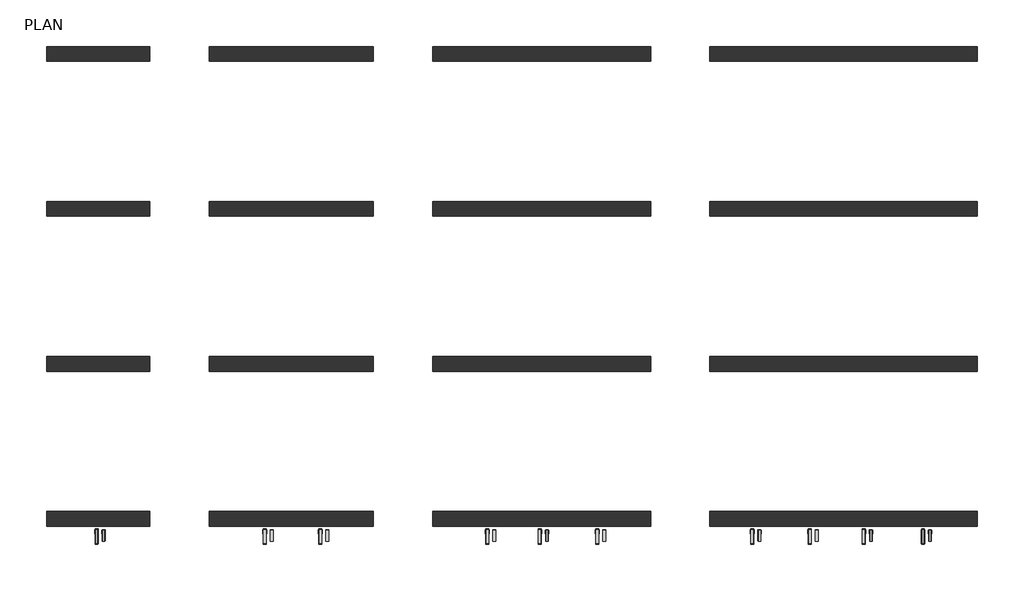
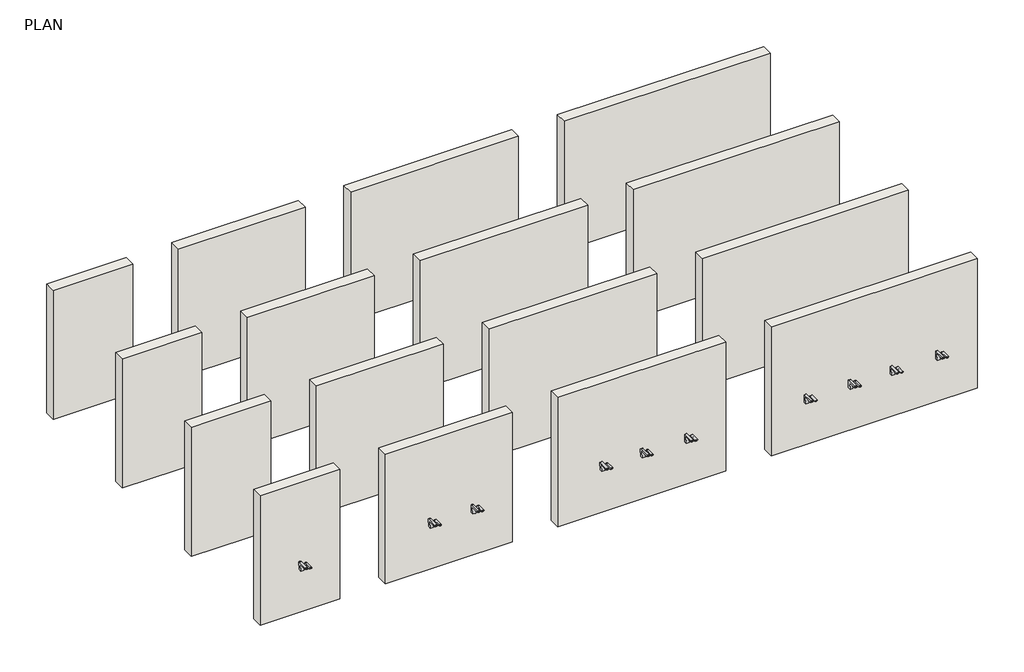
# One storey, incomplete: 16 walls, 10 flow terminals, 10 proxies.
"""IFC4 building model written with IfcOpenShell, lengths in millimetres."""

from ifc_helpers import new_model, si_unit, origin, origin_with_axes, place, context, project, spatial, polyline, outline, extrude, transform, mapped, element, save
from components import specialty_equipment_7b20ac78, flow_terminal_4b3c92f4

model = new_model("IFC4")

# Units and contexts
model_context = context("Model", 3, world=origin())
ifc_project = project(units=[si_unit("LENGTHUNIT", "METRE", prefix="MILLI")], contexts=[model_context])

# Site, building, storey
site = spatial("IfcSite", under=ifc_project)
building = spatial("IfcBuilding", under=site)
storey = spatial("IfcBuildingStorey", under=building, Name="PLAN", Elevation=0.0)

# Proxies
placement = place(None, origin())
specialty_equipment_shape = specialty_equipment_7b20ac78(model_context)
element("IfcBuildingElementProxy", 1, Name="Soap_Dispenser-Bradley_Corp-Deck_Mounted-Verge_Zen_6-3700 : Verge Zen Series 6-3700", ObjectType="Soap_Dispenser-Bradley_Corp-Deck_Mounted-Verge_Zen_6-3700 : Verge Zen Series 6-3700", at=placement, inside=storey, context=model_context, shape_type="MappedRepresentation", body=[
    mapped(specialty_equipment_shape, transform((-9524.8152296, -4985.3380118, 850.9), x_axis=(1.0, 0.0, 0.0), y_axis=(0.0, 1.0, 0.0), z_axis=(0.0, 0.0, 1.0))),
])
element("IfcBuildingElementProxy", 2, Name="Soap_Dispenser-Bradley_Corp-Deck_Mounted-Verge_Zen_6-3700 : Verge Zen Series 6-3700", ObjectType="Soap_Dispenser-Bradley_Corp-Deck_Mounted-Verge_Zen_6-3700 : Verge Zen Series 6-3700", at=placement, inside=storey, context=model_context, shape_type="MappedRepresentation", body=[
    mapped(specialty_equipment_shape, transform((-7211.6295075, -4985.3380118, 850.9), x_axis=(1.0, 0.0, 0.0), y_axis=(0.0, 1.0, 0.0), z_axis=(0.0, 0.0, 1.0))),
])
element("IfcBuildingElementProxy", 3, Name="Soap_Dispenser-Bradley_Corp-Deck_Mounted-Verge_Zen_6-3700 : Verge Zen Series 6-3700", ObjectType="Soap_Dispenser-Bradley_Corp-Deck_Mounted-Verge_Zen_6-3700 : Verge Zen Series 6-3700", at=placement, inside=storey, context=model_context, shape_type="MappedRepresentation", body=[
    mapped(specialty_equipment_shape, transform((-6449.6295075, -4985.3380118, 850.9), x_axis=(1.0, 0.0, 0.0), y_axis=(0.0, 1.0, 0.0), z_axis=(0.0, 0.0, 1.0))),
])
element("IfcBuildingElementProxy", 4, Name="Soap_Dispenser-Bradley_Corp-Deck_Mounted-Verge_Zen_6-3700 : Verge Zen Series 6-3700", ObjectType="Soap_Dispenser-Bradley_Corp-Deck_Mounted-Verge_Zen_6-3700 : Verge Zen Series 6-3700", at=placement, inside=storey, context=model_context, shape_type="MappedRepresentation", body=[
    mapped(specialty_equipment_shape, transform((-4153.101982, -4985.3380118, 850.9), x_axis=(1.0, 0.0, 0.0), y_axis=(0.0, 1.0, 0.0), z_axis=(0.0, 0.0, 1.0))),
])
element("IfcBuildingElementProxy", 5, Name="Soap_Dispenser-Bradley_Corp-Deck_Mounted-Verge_Zen_6-3700 : Verge Zen Series 6-3700", ObjectType="Soap_Dispenser-Bradley_Corp-Deck_Mounted-Verge_Zen_6-3700 : Verge Zen Series 6-3700", at=placement, inside=storey, context=model_context, shape_type="MappedRepresentation", body=[
    mapped(specialty_equipment_shape, transform((-3427.6498964, -4985.3380118, 850.9), x_axis=(1.0, 0.0, 0.0), y_axis=(0.0, 1.0, 0.0), z_axis=(0.0, 0.0, 1.0))),
])
element("IfcBuildingElementProxy", 6, Name="Soap_Dispenser-Bradley_Corp-Deck_Mounted-Verge_Zen_6-3700 : Verge Zen Series 6-3700", ObjectType="Soap_Dispenser-Bradley_Corp-Deck_Mounted-Verge_Zen_6-3700 : Verge Zen Series 6-3700", at=placement, inside=storey, context=model_context, shape_type="MappedRepresentation", body=[
    mapped(specialty_equipment_shape, transform((-2640.2498964, -4985.3380118, 850.9), x_axis=(1.0, 0.0, 0.0), y_axis=(0.0, 1.0, 0.0), z_axis=(0.0, 0.0, 1.0))),
])
element("IfcBuildingElementProxy", 7, Name="Soap_Dispenser-Bradley_Corp-Deck_Mounted-Verge_Zen_6-3700 : Verge Zen Series 6-3700", ObjectType="Soap_Dispenser-Bradley_Corp-Deck_Mounted-Verge_Zen_6-3700 : Verge Zen Series 6-3700", at=placement, inside=storey, context=model_context, shape_type="MappedRepresentation", body=[
    mapped(specialty_equipment_shape, transform((-506.6498964, -4985.3380118, 850.9), x_axis=(1.0, 0.0, 0.0), y_axis=(0.0, 1.0, 0.0), z_axis=(0.0, 0.0, 1.0))),
])
element("IfcBuildingElementProxy", 8, Name="Soap_Dispenser-Bradley_Corp-Deck_Mounted-Verge_Zen_6-3700 : Verge Zen Series 6-3700", ObjectType="Soap_Dispenser-Bradley_Corp-Deck_Mounted-Verge_Zen_6-3700 : Verge Zen Series 6-3700", at=placement, inside=storey, context=model_context, shape_type="MappedRepresentation", body=[
    mapped(specialty_equipment_shape, transform((280.7501036, -4985.3380118, 850.9), x_axis=(1.0, 0.0, 0.0), y_axis=(0.0, 1.0, 0.0), z_axis=(0.0, 0.0, 1.0))),
])
element("IfcBuildingElementProxy", 9, Name="Soap_Dispenser-Bradley_Corp-Deck_Mounted-Verge_Zen_6-3700 : Verge Zen Series 6-3700", ObjectType="Soap_Dispenser-Bradley_Corp-Deck_Mounted-Verge_Zen_6-3700 : Verge Zen Series 6-3700", at=placement, inside=storey, context=model_context, shape_type="MappedRepresentation", body=[
    mapped(specialty_equipment_shape, transform((1027.3620921, -4985.3380118, 850.9), x_axis=(1.0, 0.0, 0.0), y_axis=(0.0, 1.0, 0.0), z_axis=(0.0, 0.0, 1.0))),
])
element("IfcBuildingElementProxy", 10, Name="Soap_Dispenser-Bradley_Corp-Deck_Mounted-Verge_Zen_6-3700 : Verge Zen Series 6-3700", ObjectType="Soap_Dispenser-Bradley_Corp-Deck_Mounted-Verge_Zen_6-3700 : Verge Zen Series 6-3700", at=placement, inside=storey, context=model_context, shape_type="MappedRepresentation", body=[
    mapped(specialty_equipment_shape, transform((1840.1620921, -4985.3380118, 850.9), x_axis=(1.0, 0.0, 0.0), y_axis=(0.0, 1.0, 0.0), z_axis=(0.0, 0.0, 1.0))),
])

# Flow terminals
flow_terminal_shape = flow_terminal_4b3c92f4(model_context)
element("IfcFlowTerminal", 11, ObjectType="Faucet-Bradley_Corp-Deck_Mounted-Verge_Zen_S53-3700 : Verge Zen Series S53-3700", at=placement, inside=storey, context=model_context, shape_type="MappedRepresentation", body=[
    mapped(flow_terminal_shape, transform((-9621.6780913, -4980.3380118, 850.9), x_axis=(1.0, 0.0, 0.0), y_axis=(0.0, 1.0, 0.0), z_axis=(0.0, 0.0, 1.0))),
])
element("IfcFlowTerminal", 12, ObjectType="Faucet-Bradley_Corp-Deck_Mounted-Verge_Zen_S53-3700 : Verge Zen Series S53-3700", at=placement, inside=storey, context=model_context, shape_type="MappedRepresentation", body=[
    mapped(flow_terminal_shape, transform((-7308.4923692, -4980.3380118, 850.9), x_axis=(1.0, 0.0, 0.0), y_axis=(0.0, 1.0, 0.0), z_axis=(0.0, 0.0, 1.0))),
])
element("IfcFlowTerminal", 13, ObjectType="Faucet-Bradley_Corp-Deck_Mounted-Verge_Zen_S53-3700 : Verge Zen Series S53-3700", at=placement, inside=storey, context=model_context, shape_type="MappedRepresentation", body=[
    mapped(flow_terminal_shape, transform((-6546.4923692, -4980.3380118, 850.9), x_axis=(1.0, 0.0, 0.0), y_axis=(0.0, 1.0, 0.0), z_axis=(0.0, 0.0, 1.0))),
])
element("IfcFlowTerminal", 14, ObjectType="Faucet-Bradley_Corp-Deck_Mounted-Verge_Zen_S53-3700 : Verge Zen Series S53-3700", at=placement, inside=storey, context=model_context, shape_type="MappedRepresentation", body=[
    mapped(flow_terminal_shape, transform((-4249.9648437, -4980.3380118, 850.9), x_axis=(1.0, 0.0, 0.0), y_axis=(0.0, 1.0, 0.0), z_axis=(0.0, 0.0, 1.0))),
])
element("IfcFlowTerminal", 15, ObjectType="Faucet-Bradley_Corp-Deck_Mounted-Verge_Zen_S53-3700 : Verge Zen Series S53-3700", at=placement, inside=storey, context=model_context, shape_type="MappedRepresentation", body=[
    mapped(flow_terminal_shape, transform((-3524.5127581, -4980.3380118, 850.9), x_axis=(1.0, 0.0, 0.0), y_axis=(0.0, 1.0, 0.0), z_axis=(0.0, 0.0, 1.0))),
])
element("IfcFlowTerminal", 16, ObjectType="Faucet-Bradley_Corp-Deck_Mounted-Verge_Zen_S53-3700 : Verge Zen Series S53-3700", at=placement, inside=storey, context=model_context, shape_type="MappedRepresentation", body=[
    mapped(flow_terminal_shape, transform((-2737.1127581, -4980.3380118, 850.9), x_axis=(1.0, 0.0, 0.0), y_axis=(0.0, 1.0, 0.0), z_axis=(0.0, 0.0, 1.0))),
])
element("IfcFlowTerminal", 17, ObjectType="Faucet-Bradley_Corp-Deck_Mounted-Verge_Zen_S53-3700 : Verge Zen Series S53-3700", at=placement, inside=storey, context=model_context, shape_type="MappedRepresentation", body=[
    mapped(flow_terminal_shape, transform((-603.5127581, -4980.3380118, 850.9), x_axis=(1.0, 0.0, 0.0), y_axis=(0.0, 1.0, 0.0), z_axis=(0.0, 0.0, 1.0))),
])
element("IfcFlowTerminal", 18, ObjectType="Faucet-Bradley_Corp-Deck_Mounted-Verge_Zen_S53-3700 : Verge Zen Series S53-3700", at=placement, inside=storey, context=model_context, shape_type="MappedRepresentation", body=[
    mapped(flow_terminal_shape, transform((183.8872419, -4980.3380118, 850.9), x_axis=(1.0, 0.0, 0.0), y_axis=(0.0, 1.0, 0.0), z_axis=(0.0, 0.0, 1.0))),
])
element("IfcFlowTerminal", 19, ObjectType="Faucet-Bradley_Corp-Deck_Mounted-Verge_Zen_S53-3700 : Verge Zen Series S53-3700", at=placement, inside=storey, context=model_context, shape_type="MappedRepresentation", body=[
    mapped(flow_terminal_shape, transform((930.4992304, -4980.3380118, 850.9), x_axis=(1.0, 0.0, 0.0), y_axis=(0.0, 1.0, 0.0), z_axis=(0.0, 0.0, 1.0))),
])
element("IfcFlowTerminal", 20, ObjectType="Faucet-Bradley_Corp-Deck_Mounted-Verge_Zen_S53-3700 : Verge Zen Series S53-3700", at=placement, inside=storey, context=model_context, shape_type="MappedRepresentation", body=[
    mapped(flow_terminal_shape, transform((1743.2992304, -4980.3380118, 850.9), x_axis=(1.0, 0.0, 0.0), y_axis=(0.0, 1.0, 0.0), z_axis=(0.0, 0.0, 1.0))),
])

# Walls
element("IfcWall", 21, ObjectType="Generic - 8\"", at=placement, inside=storey, context=model_context, shape_type="SweptSolid", body=[
    extrude(outline(polyline([(-8887.0169292, 1494.8369882), (-10309.4169292, 1494.8369882), (-10309.4169292, 1698.0369882), (-8887.0169292, 1698.0369882), (-8887.0169292, 1494.8369882)])), origin_with_axes(), (0.0, 0.0, 1.0), 2438.4),
])
element("IfcWall", 22, ObjectType="Generic - 8\"", at=placement, inside=storey, context=model_context, shape_type="SweptSolid", body=[
    extrude(outline(polyline([(-5813.6169292, 1494.8369882), (-8074.2169292, 1494.8369882), (-8074.2169292, 1698.0369882), (-5813.6169292, 1698.0369882), (-5813.6169292, 1494.8369882)])), origin_with_axes(), (0.0, 0.0, 1.0), 2438.4),
])
element("IfcWall", 23, ObjectType="Generic - 8\"", at=placement, inside=storey, context=model_context, shape_type="SweptSolid", body=[
    extrude(outline(polyline([(-2003.6169292, 1494.8369882), (-5000.8169292, 1494.8369882), (-5000.8169292, 1698.0369882), (-2003.6169292, 1698.0369882), (-2003.6169292, 1494.8369882)])), origin_with_axes(), (0.0, 0.0, 1.0), 2438.4),
])
element("IfcWall", 24, ObjectType="Generic - 8\"", at=placement, inside=storey, context=model_context, shape_type="SweptSolid", body=[
    extrude(outline(polyline([(2492.1830708, 1494.8369882), (-1190.8169292, 1494.8369882), (-1190.8169292, 1698.0369882), (2492.1830708, 1698.0369882), (2492.1830708, 1494.8369882)])), origin_with_axes(), (0.0, 0.0, 1.0), 2438.4),
])
element("IfcWall", 25, ObjectType="Generic - 8\"", at=placement, inside=storey, context=model_context, shape_type="SweptSolid", body=[
    extrude(outline(polyline([(-8887.0169292, -638.7630118), (-10309.4169292, -638.7630118), (-10309.4169292, -435.5630118), (-8887.0169292, -435.5630118), (-8887.0169292, -638.7630118)])), origin_with_axes(), (0.0, 0.0, 1.0), 2438.4),
])
element("IfcWall", 26, ObjectType="Generic - 8\"", at=placement, inside=storey, context=model_context, shape_type="SweptSolid", body=[
    extrude(outline(polyline([(-5813.6169292, -638.7630118), (-8074.2169292, -638.7630118), (-8074.2169292, -435.5630118), (-5813.6169292, -435.5630118), (-5813.6169292, -638.7630118)])), origin_with_axes(), (0.0, 0.0, 1.0), 2438.4),
])
element("IfcWall", 27, ObjectType="Generic - 8\"", at=placement, inside=storey, context=model_context, shape_type="SweptSolid", body=[
    extrude(outline(polyline([(-2003.6169292, -638.7630118), (-5000.8169292, -638.7630118), (-5000.8169292, -435.5630118), (-2003.6169292, -435.5630118), (-2003.6169292, -638.7630118)])), origin_with_axes(), (0.0, 0.0, 1.0), 2438.4),
])
element("IfcWall", 28, ObjectType="Generic - 8\"", at=placement, inside=storey, context=model_context, shape_type="SweptSolid", body=[
    extrude(outline(polyline([(2492.1830708, -638.7630118), (-1190.8169292, -638.7630118), (-1190.8169292, -435.5630118), (2492.1830708, -435.5630118), (2492.1830708, -638.7630118)])), origin_with_axes(), (0.0, 0.0, 1.0), 2438.4),
])
element("IfcWall", 29, ObjectType="Generic - 8\"", at=placement, inside=storey, context=model_context, shape_type="SweptSolid", body=[
    extrude(outline(polyline([(-8887.0169292, -2772.3630118), (-10309.4169292, -2772.3630118), (-10309.4169292, -2569.1630118), (-8887.0169292, -2569.1630118), (-8887.0169292, -2772.3630118)])), origin_with_axes(), (0.0, 0.0, 1.0), 2438.4),
])
element("IfcWall", 30, ObjectType="Generic - 8\"", at=placement, inside=storey, context=model_context, shape_type="SweptSolid", body=[
    extrude(outline(polyline([(-5813.6169292, -2772.3630118), (-8074.2169292, -2772.3630118), (-8074.2169292, -2569.1630118), (-5813.6169292, -2569.1630118), (-5813.6169292, -2772.3630118)])), origin_with_axes(), (0.0, 0.0, 1.0), 2438.4),
])
element("IfcWall", 31, ObjectType="Generic - 8\"", at=placement, inside=storey, context=model_context, shape_type="SweptSolid", body=[
    extrude(outline(polyline([(-2003.6169292, -2772.3630118), (-5000.8169292, -2772.3630118), (-5000.8169292, -2569.1630118), (-2003.6169292, -2569.1630118), (-2003.6169292, -2772.3630118)])), origin_with_axes(), (0.0, 0.0, 1.0), 2438.4),
])
element("IfcWall", 32, ObjectType="Generic - 8\"", at=placement, inside=storey, context=model_context, shape_type="SweptSolid", body=[
    extrude(outline(polyline([(2492.1830708, -2772.3630118), (-1190.8169292, -2772.3630118), (-1190.8169292, -2569.1630118), (2492.1830708, -2569.1630118), (2492.1830708, -2772.3630118)])), origin_with_axes(), (0.0, 0.0, 1.0), 2438.4),
])
element("IfcWall", 33, ObjectType="Generic - 8\"", at=placement, inside=storey, context=model_context, shape_type="SweptSolid", body=[
    extrude(outline(polyline([(-8887.0169292, -4905.9630118), (-10309.4169292, -4905.9630118), (-10309.4169292, -4702.7630118), (-8887.0169292, -4702.7630118), (-8887.0169292, -4905.9630118)])), origin_with_axes(), (0.0, 0.0, 1.0), 2438.4),
])
element("IfcWall", 34, ObjectType="Generic - 8\"", at=placement, inside=storey, context=model_context, shape_type="SweptSolid", body=[
    extrude(outline(polyline([(-5813.6169292, -4905.9630118), (-8074.2169292, -4905.9630118), (-8074.2169292, -4702.7630118), (-5813.6169292, -4702.7630118), (-5813.6169292, -4905.9630118)])), origin_with_axes(), (0.0, 0.0, 1.0), 2438.4),
])
element("IfcWall", 35, ObjectType="Generic - 8\"", at=placement, inside=storey, context=model_context, shape_type="SweptSolid", body=[
    extrude(outline(polyline([(-2003.6169292, -4905.9630118), (-5000.8169292, -4905.9630118), (-5000.8169292, -4702.7630118), (-2003.6169292, -4702.7630118), (-2003.6169292, -4905.9630118)])), origin_with_axes(), (0.0, 0.0, 1.0), 2438.4),
])
element("IfcWall", 36, ObjectType="Generic - 8\"", at=placement, inside=storey, context=model_context, shape_type="SweptSolid", body=[
    extrude(outline(polyline([(2492.1830708, -4905.9630118), (-1190.8169292, -4905.9630118), (-1190.8169292, -4702.7630118), (2492.1830708, -4702.7630118), (2492.1830708, -4905.9630118)])), origin_with_axes(), (0.0, 0.0, 1.0), 2438.4),
])

save(model, "model.ifc")
